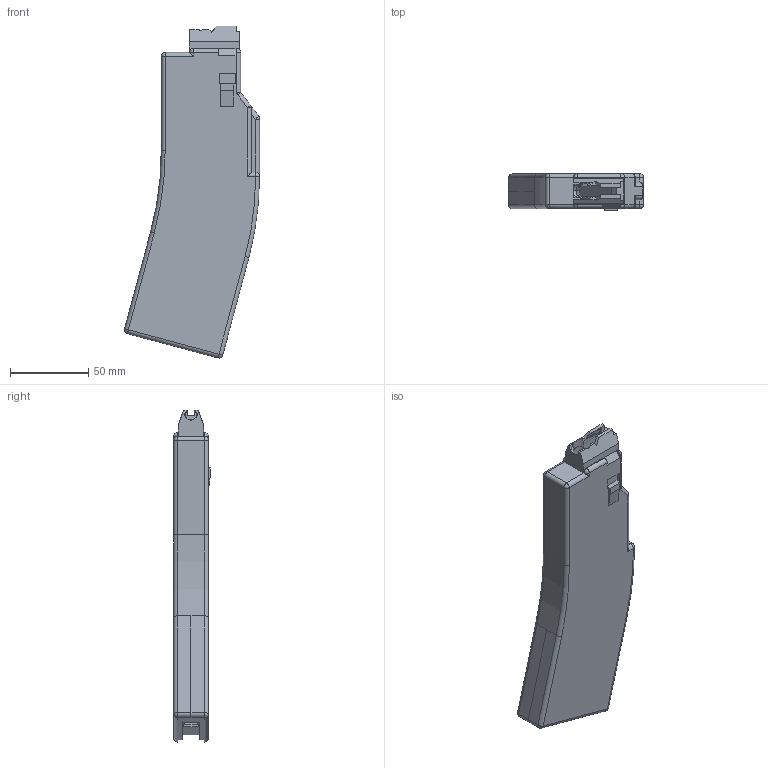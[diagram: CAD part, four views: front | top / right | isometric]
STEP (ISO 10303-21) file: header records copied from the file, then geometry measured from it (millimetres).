
FILE_DESCRIPTION(/* description */ (''),/* implementation_level */ '2;1');
FILE_NAME(/* name */ 'D:/CTRLPEW/Magazines/Rifle/Rifle Mags/AR Magazines/.22 Mags/S&W15-22 Mag Final/S&W15-22 Mag Solid Body.step',/* time_stamp */ '2021-06-26T18:16:54-06:00',/* author */ (''),/* organization */ (''),/* preprocessor_version */ 'ST-DEVELOPER v18.1',/* originating_system */ 'Autodesk Translation Framework v10.9.0.1377',/* authorisation */ '');
FILE_SCHEMA (('AUTOMOTIVE_DESIGN { 1 0 10303 214 3 1 1 }'));
Length unit declared in the file: millimetre
Products named in the file (1): S&W15-22 mag
Bounding box: 86.24 x 23.62 x 211.97 mm (x, y, z)
Volume: 215509.6 mm3; surface area: 49916.2 mm2
Topology: 1 solids, 1 shells, 291 faces, 737 edges, 442 vertices
Faces by surface type: plane 113, bspline 100, cylinder 65, sphere 9, torus 4
Entity records: 11783 total; most frequent: CARTESIAN_POINT 5377, ORIENTED_EDGE 1462, DIRECTION 1128, EDGE_CURVE 731, VERTEX_POINT 442, AXIS2_PLACEMENT_3D 417, LINE 294, VECTOR 294
